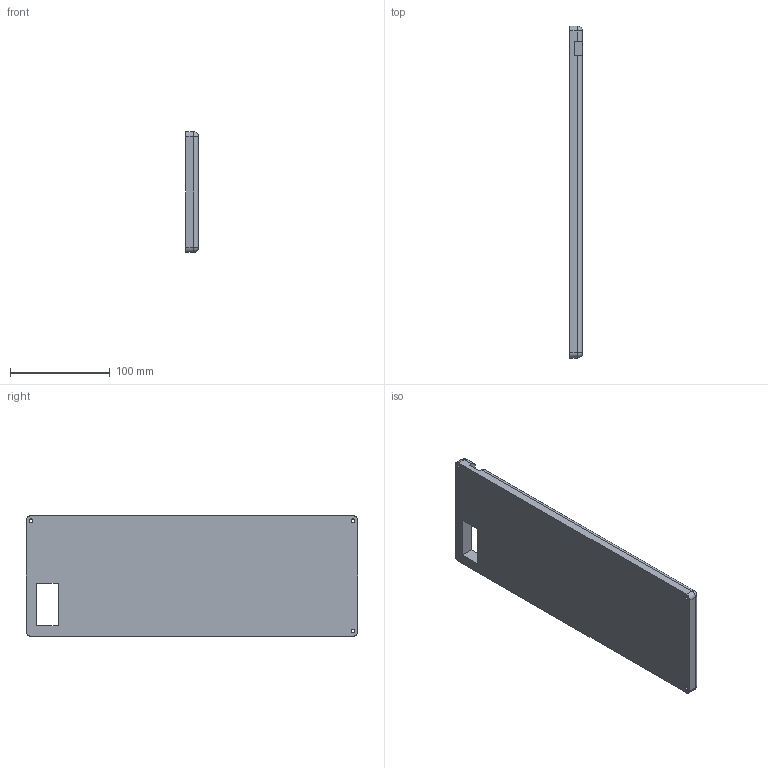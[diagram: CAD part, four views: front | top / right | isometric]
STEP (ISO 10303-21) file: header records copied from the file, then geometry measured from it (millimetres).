
FILE_DESCRIPTION(/* description */ ('STEP AP242','CAx-IF Rec.Pracs.---Representation and Presentation of Product Manufacturing Information (PMI)---4.0---2014-10-13','CAx-IF Rec.Pracs.---3D Tessellated Geometry---0.4---2014-09-14','2;1'),/* implementation_level */ '2;1');
FILE_NAME(/* name */ 'Assembly 1 - Part 4',/* time_stamp */ '2025-06-15T22:21:07Z',/* author */ (''),/* organization */ (''),/* preprocessor_version */ 'ST-DEVELOPER v20',/* originating_system */ 'ONSHAPE BY PTC INC, 1.199',/* authorisation */ ' ');
FILE_SCHEMA (('AP242_MANAGED_MODEL_BASED_3D_ENGINEERING_MIM_LF { 1 0 10303 442 1 1 4 }'));
Length unit declared in the file: metre
Products named in the file (1): Part 4
Bounding box: 13 x 333 x 121 mm (x, y, z)
Volume: 199113.4 mm3; surface area: 98713.2 mm2
Topology: 1 solids, 1 shells, 36 faces, 104 edges, 63 vertices
Faces by surface type: plane 20, cylinder 12, sphere 4
Full cylindrical faces by diameter (mm): 3.6 x3
Entity records: 1169 total; most frequent: CARTESIAN_POINT 222, ORIENTED_EDGE 192, DIRECTION 189, EDGE_CURVE 96, LINE 63, VECTOR 63, AXIS2_PLACEMENT_3D 63, VERTEX_POINT 62
